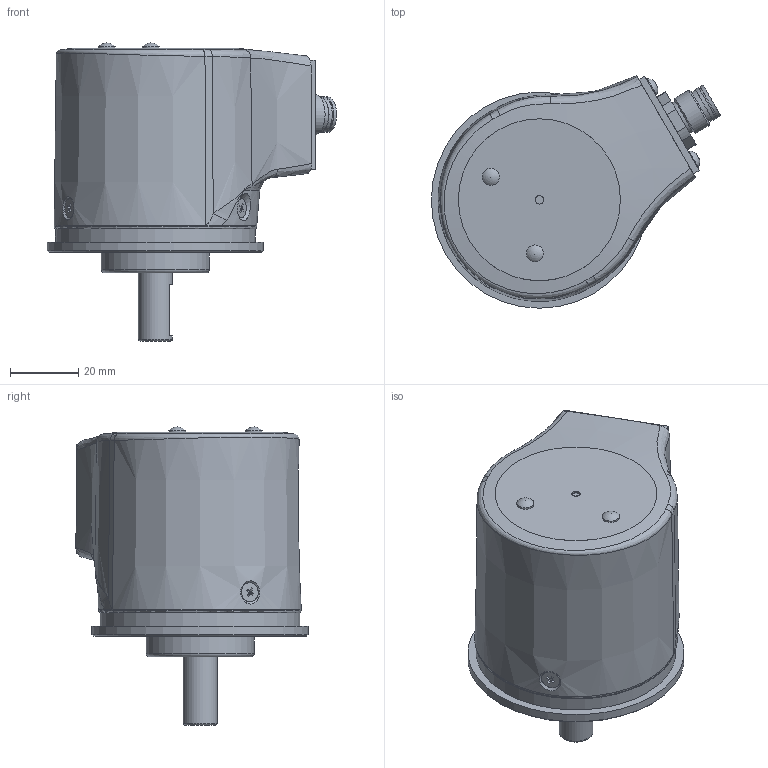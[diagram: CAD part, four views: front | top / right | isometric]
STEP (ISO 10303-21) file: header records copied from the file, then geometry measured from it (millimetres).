
FILE_DESCRIPTION(/* description */ ('Unknown'),/* implementation_level */ '2;1');
FILE_NAME(/* name */ 'EAL_EAML_63_A_M12R',/* time_stamp */ '2018-04-19T18:09:21+02:00',/* author */ ('Unknown'),/* organization */ ('Unknown'),/* preprocessor_version */ 'ST-DEVELOPER v16.7',/* originating_system */ 'DEX',/* authorisation */ $);
FILE_SCHEMA (('AUTOMOTIVE_DESIGN {1 0 10303 214 3 1 1}'));
Length unit declared in the file: millimetre
Products named in the file (1): tmpEAL_EAML_63_A_M12R
Bounding box: 85.01 x 68.24 x 87.54 mm (x, y, z)
Volume: 86868.9 mm3; surface area: 47454.2 mm2
Topology: 3 solids, 21 shells, 536 faces, 1276 edges, 843 vertices
Faces by surface type: plane 269, cylinder 139, cone 76, torus 35, bspline 17
Full cylindrical faces by diameter (mm): 0.9 x16, 1.5 x8, 2.013 x7, 2.459 x10, 2.5 x1, 3 x7, 3.4 x3, 4.134 x6, 4.98 x1, 5 x3, 5.6 x3, 6 x5, 7.98 x1, 8 x7, 8.25 x1, 8.772 x1, 10 x5, 10.4 x4, 12 x1, 12.4 x1, 13 x1, 14.53 x1, 15.2 x1, 22 x3, 22.1 x2, 22.5 x1, 27 x1, 29 x2, 31.75 x1, 36 x1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
Entity records: 18500 total; most frequent: CARTESIAN_POINT 4206, DIRECTION 2190, ORIENTED_EDGE 1840, AXIS2_PLACEMENT_3D 926, EDGE_CURVE 920, FACE_BOUND 867, EDGE_LOOP 847, VERTEX_POINT 725
